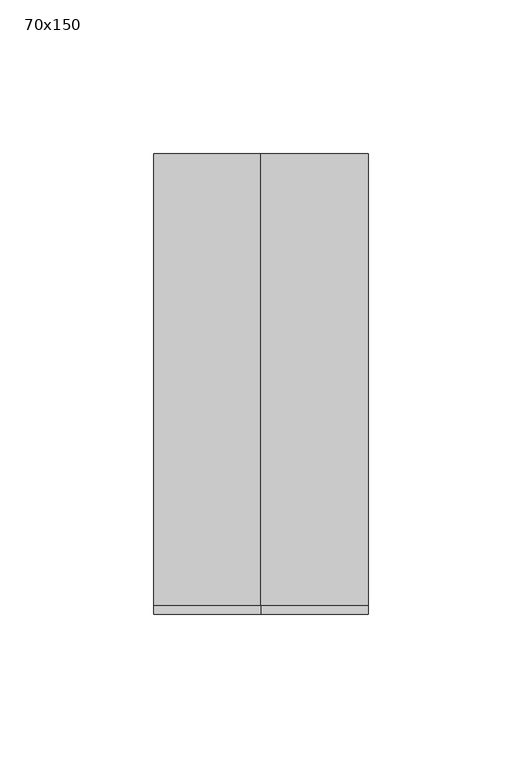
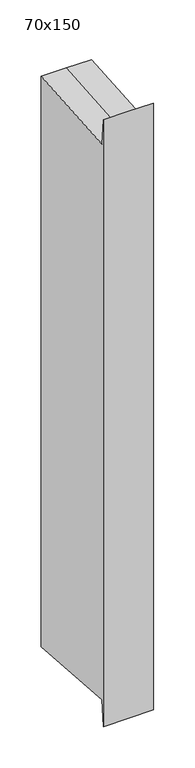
"""IFC4 building model written with IfcOpenShell, lengths in millimetres: member geometry, 長方形のマリオン : 70x150."""

from ifc_helpers import new_model, si_unit, origin, place, context, project, spatial, faceted_brep, source, transform, mapped, element, save


def member_70x150_482b1498(model_context):
    return source(origin(), model_context, "Body", "Brep", [
        faceted_brep([(-35.0, 75.0, 5.431663), (0.0, 75.0, 5.431663), (35.0, 75.0, 5.431663), (35.0, 75.0, -835.431663), (0.0, 75.0, -835.431663), (-35.0, 75.0, -835.431663), (-35.0, -75.0, 32.2404626), (-35.0, -72.2251205, -5.4169763), (-35.0, -72.2251205, -824.5830237), (-35.0, -75.0, -862.2404626), (35.0, -75.0, 32.2404626), (0.0, -75.0, 32.2404626), (0.0, -75.0, -862.2404626), (35.0, -75.0, -862.2404626), (35.0, -72.2251205, -5.4169763), (35.0, -72.2251205, -824.5830237), (0.0, -72.2251205, -5.4169763), (0.0, -72.2251205, -824.5830237)], [[[0, 1, 2, 3, 4, 5]], [[6, 7, 0, 5, 8, 9]], [[10, 11, 6, 9, 12, 13]], [[2, 14, 10, 13, 15, 3]], [[2, 1, 16, 14]], [[1, 0, 7, 16]], [[7, 6, 11, 16]], [[11, 10, 14, 16]], [[3, 15, 17, 4]], [[15, 13, 12, 17]], [[12, 9, 8, 17]], [[8, 5, 4, 17]]]),
    ])


if __name__ == "__main__":
    model = new_model("IFC4")
    model_context = context("Model", 3, world=origin())
    ifc_project = project(units=[si_unit("LENGTHUNIT", "METRE", prefix="MILLI")], contexts=[model_context])
    site = spatial("IfcSite", under=ifc_project)
    building = spatial("IfcBuilding", under=site)
    placement = place(None, origin())
    member_70x150_shape = member_70x150_482b1498(model_context)
    element("IfcMember", 1, ObjectType="長方形のマリオン : 70x150", at=placement, inside=building, context=model_context, shape_type="MappedRepresentation", body=[
        mapped(member_70x150_shape, transform((0.0, 0.0, 0.0), x_axis=(1.0, 0.0, 0.0), y_axis=(0.0, 1.0, 0.0), z_axis=(0.0, 0.0, 1.0))),
    ])
    save(model, "model.ifc")
